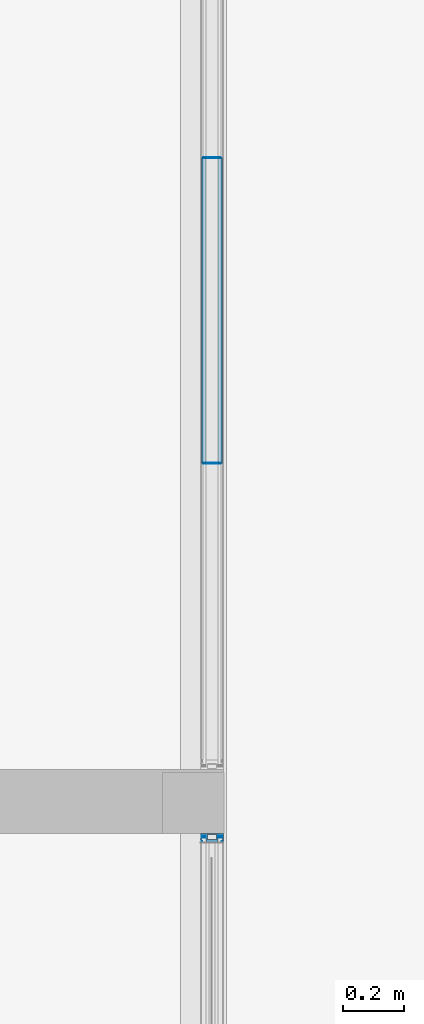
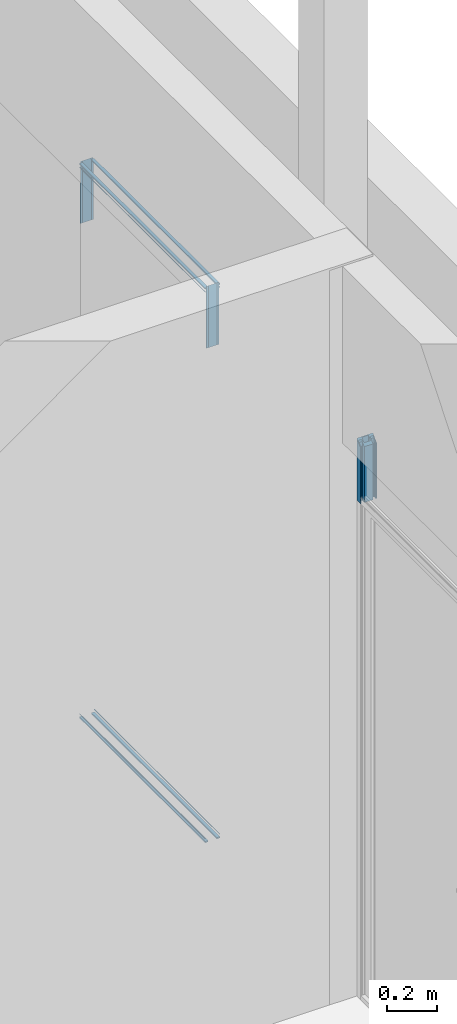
# One storey, part 23 of 65: 8 building element parts, 7 elements without a shape of their own.
"""IFC2X3 building model written with IfcOpenShell, lengths in millimetres."""

import ifcopenshell
import ifcopenshell.guid

model = None  # the IFC model being written
_history = None  # IfcOwnerHistory: only IFC2X3 demands one
_inside = {}  # id of a spatial element -> (the spatial element, [elements in it])
_under = {}  # id of a project, library or spatial element -> (it, [spatial elements below it])
_declared = {}  # id of a project -> (the project, [libraries it declares])
_typed = {}  # id of a type object -> (the type object, [elements of that type])
_made_of = {}  # id of a material, layer set ... -> (it, [elements and type objects made of it])


def new_model(schema):
    """Start an empty IFC model of exactly this schema.

    Asked for "IFC4X3", IfcOpenShell would pick the latest addendum, in which some entities
    have other attributes; the version numbers below select the first issue.
    IFC2X3 requires an IfcOwnerHistory on every rooted entity: one is made here for all.
    """
    global model, _history
    if schema == "IFC4X3":
        model = ifcopenshell.file(schema_version=(4, 3, 0, 0))
    else:
        model = ifcopenshell.file(schema=schema)
    _inside.clear()
    _under.clear()
    _declared.clear()
    _typed.clear()
    _made_of.clear()
    _history = None
    if model.schema == "IFC2X3":
        org = make("IfcOrganization", Name="unknown")
        user = make(
            "IfcPersonAndOrganization",
            ThePerson=make("IfcPerson", FamilyName="unknown"),
            TheOrganization=org,
        )
        app = make(
            "IfcApplication",
            ApplicationDeveloper=org,
            Version="unknown",
            ApplicationFullName="unknown",
            ApplicationIdentifier="unknown",
        )
        _history = make(
            "IfcOwnerHistory",
            OwningUser=user,
            OwningApplication=app,
            ChangeAction="ADDED",
            CreationDate=0,
        )
    return model


def make(cls, **values):
    """One entity of the class cls with the attributes given. An attribute that is None is left unset."""
    return model.create_entity(
        cls, **{name: value for name, value in values.items() if value is not None}
    )


def entity(cls, *values):
    """Any entity or typed value of the class cls, its attributes in the order of the schema. None: left unset."""
    e = model.create_entity(cls)
    for i, value in enumerate(values):
        if value is not None:
            e[i] = value
    return e


def rooted(cls, **values):
    """An entity with a GlobalId (a new one), such as an element, a storey or a relation."""
    return make(cls, GlobalId=ifcopenshell.guid.new(), OwnerHistory=_history, **values)


def si_unit(unit_type, name, prefix=None):
    """IfcSIUnit, for example si_unit("LENGTHUNIT", "METRE", prefix="MILLI")."""
    return make("IfcSIUnit", UnitType=unit_type, Prefix=prefix, Name=name)


def converted_unit(unit_type, name, factor, base, dimensions=None, offset=None):
    """IfcConversionBasedUnit, such as the inch: factor (a typed value) times the base unit."""
    return make(
        "IfcConversionBasedUnit"
        if offset is None
        else "IfcConversionBasedUnitWithOffset",
        ConversionOffset=offset,
        Dimensions=None
        if dimensions is None
        else entity("IfcDimensionalExponents", *dimensions),
        UnitType=unit_type,
        Name=name,
        ConversionFactor=make(
            "IfcMeasureWithUnit", ValueComponent=factor, UnitComponent=base
        ),
    )


def derived_unit(unit_type, elements):
    """IfcDerivedUnit: a product of units, each with its exponent."""
    return make(
        "IfcDerivedUnit",
        Elements=[
            make("IfcDerivedUnitElement", Unit=unit, Exponent=power)
            for unit, power in elements
        ],
        UnitType=unit_type,
    )


def money_unit(currency):
    """IfcMonetaryUnit."""
    return make("IfcMonetaryUnit", Currency=currency)


def assignment(units):
    """IfcUnitAssignment: the units of a project."""
    return None if units is None else make("IfcUnitAssignment", Units=units)


def point(xyz):
    """IfcCartesianPoint."""
    return None if xyz is None else make("IfcCartesianPoint", Coordinates=xyz)


def direction(xyz):
    """IfcDirection."""
    return None if xyz is None else make("IfcDirection", DirectionRatios=xyz)


def frame(location, z_axis=None, x_axis=None):
    """IfcAxis2Placement3D, a coordinate frame: its origin and axes. An axis left out is left unset."""
    return make(
        "IfcAxis2Placement3D",
        Location=point(location),
        Axis=direction(z_axis),
        RefDirection=direction(x_axis),
    )


def origin_with_axes():
    """The frame at (0, 0, 0) with the z axis (0, 0, 1) and the x axis (1, 0, 0) written out."""
    return frame((0.0, 0.0, 0.0), z_axis=(0.0, 0.0, 1.0), x_axis=(1.0, 0.0, 0.0))


def place(relative_to, where):
    """IfcLocalPlacement: puts the frame where relative to a parent placement (None: the world)."""
    return make(
        "IfcLocalPlacement", PlacementRelTo=relative_to, RelativePlacement=where
    )


def context(
    kind, dimensions, precision=None, world=None, true_north=None, identifier=None
):
    """IfcGeometricRepresentationContext, for example the 3D "Model" context."""
    return make(
        "IfcGeometricRepresentationContext",
        ContextIdentifier=identifier,
        ContextType=kind,
        CoordinateSpaceDimension=dimensions,
        Precision=precision,
        WorldCoordinateSystem=world,
        TrueNorth=true_north,
    )


def subcontext(parent, identifier, kind, view, scale=None):
    """IfcGeometricRepresentationSubContext, for example "Body" below "Model"."""
    return make(
        "IfcGeometricRepresentationSubContext",
        ContextIdentifier=identifier,
        ContextType=kind,
        ParentContext=parent,
        TargetScale=scale,
        TargetView=view,
    )


def project(units=None, contexts=None):
    """IfcProject with its units and contexts."""
    return rooted(
        "IfcProject",
        Name="project",
        RepresentationContexts=contexts,
        UnitsInContext=assignment(units),
    )


def spatial(cls, under=None, at=None, **own):
    """A site, building, storey or space (cls), placed at a placement, below another one or the project."""
    s = rooted(cls, ObjectPlacement=at, **own)
    if under is not None:
        _under.setdefault(under.id(), (under, []))[1].append(s)
    return s


def faces_of(points, faces, orient=None, outer=None):
    """IfcFace entities. A face is a list of loops; a loop is a list of indices into points, from 0.

    orient and outer hold one flag for each loop. By default every Orientation is true, the
    first loop of a face is its IfcFaceOuterBound and the others are IfcFaceBound.
    """
    made = []
    for i, loops in enumerate(faces):
        bounds = []
        for j, loop in enumerate(loops):
            is_outer = j == 0 if outer is None else outer[i][j]
            bounds.append(
                make(
                    "IfcFaceOuterBound" if is_outer else "IfcFaceBound",
                    Bound=make("IfcPolyLoop", Polygon=[points[k] for k in loop]),
                    Orientation=True if orient is None else orient[i][j],
                )
            )
        made.append(make("IfcFace", Bounds=bounds))
    return made


def faceted_brep(points, faces, orient=None, outer=None, voids=None):
    """IfcFacetedBrep: a solid bounded by flat faces; with voids (closed shells), ...WithVoids."""
    shared = [point(p) for p in points]
    hull = make("IfcClosedShell", CfsFaces=faces_of(shared, faces, orient, outer))
    if voids is None:
        return make("IfcFacetedBrep", Outer=hull)
    return make(
        "IfcFacetedBrepWithVoids",
        Outer=hull,
        Voids=[
            make(cls, CfsFaces=faces_of(shared, fs, o, b)) for cls, fs, o, b in voids
        ],
    )


def shape(context_of_items, identifier, shape_type, items):
    """IfcShapeRepresentation: the items that make up one representation, for example the "Body"."""
    return make(
        "IfcShapeRepresentation",
        ContextOfItems=context_of_items,
        RepresentationIdentifier=identifier,
        RepresentationType=shape_type,
        Items=items,
    )


def source(mapping_origin, context_of_items, identifier, shape_type, items):
    """IfcRepresentationMap: a shape defined once, which mapped items show again and again."""
    return make(
        "IfcRepresentationMap",
        MappingOrigin=mapping_origin,
        MappedRepresentation=shape(context_of_items, identifier, shape_type, items),
    )


def transform(
    local_origin,
    x_axis=None,
    y_axis=None,
    z_axis=None,
    scale=None,
    scale2=None,
    scale3=None,
    uniform=True,
):
    """IfcCartesianTransformationOperator3D, or its non-uniform kind. x_axis, y_axis, z_axis: its Axis1, 2, 3."""
    if uniform:
        return make(
            "IfcCartesianTransformationOperator3D",
            Axis1=direction(x_axis),
            Axis2=direction(y_axis),
            LocalOrigin=point(local_origin),
            Scale=scale,
            Axis3=direction(z_axis),
        )
    return make(
        "IfcCartesianTransformationOperator3DnonUniform",
        Axis1=direction(x_axis),
        Axis2=direction(y_axis),
        LocalOrigin=point(local_origin),
        Scale=scale,
        Axis3=direction(z_axis),
        Scale2=scale2,
        Scale3=scale3,
    )


def mapped(mapping_source, mapping_target):
    """IfcMappedItem: shows the shape of a source again, moved by a transform."""
    return make(
        "IfcMappedItem", MappingSource=mapping_source, MappingTarget=mapping_target
    )


def material(Name=None, Category=None):
    """IfcMaterial."""
    return make("IfcMaterial", Name=Name, Category=Category)


def made_of(thing, what):
    """Note that an element or type object is made of a material, layer set ...; save() writes the relation."""
    if what is not None:
        _made_of.setdefault(what.id(), (what, []))[1].append(thing)
    return thing


def type_object(cls, material=None, **own):
    """A type object (cls), such as IfcWallType, which elements share."""
    return made_of(rooted(cls, **own), material)


def element(
    cls,
    number,
    at=None,
    inside=None,
    cuts=None,
    type_object=None,
    material=None,
    context=None,
    identifier="Body",
    shape_type=None,
    held_by="IfcProductDefinitionShape",
    body=None,
    shapes=None,
    **own,
):
    """One element of the class cls, such as IfcWall. Its Tag is "e" and its number.

    at: its placement. inside: the storey or other place that contains it. cuts: it is an
    opening in that element (IfcRelVoidsElement). A single representation is given by context,
    identifier, shape_type and body (its items); several are given by shapes. held_by: the class
    of the entity that holds the representations. save() writes the other relations.
    """
    e = rooted(cls, Tag="e%d" % number, ObjectPlacement=at, **own)
    if body is not None:
        shapes = [shape(context, identifier, shape_type, body)]
    if shapes is not None:
        e.Representation = make(held_by, Representations=shapes)
    if inside is not None:
        _inside.setdefault(inside.id(), (inside, []))[1].append(e)
    if cuts is not None:
        rooted(
            "IfcRelVoidsElement", RelatingBuildingElement=cuts, RelatedOpeningElement=e
        )
    if type_object is not None:
        _typed.setdefault(type_object.id(), (type_object, []))[1].append(e)
    return made_of(e, material)


def aggregate(whole, parts):
    """IfcRelAggregates: a whole, such as a stair, and the parts it consists of."""
    return rooted("IfcRelAggregates", RelatingObject=whole, RelatedObjects=parts)


def save(model, path):
    """Write the relations noted so far, then the file.

    IfcRelAggregates (storeys below a building ...), IfcRelContainedInSpatialStructure (elements
    in a storey), IfcRelDefinesByType, IfcRelAssociatesMaterial and IfcRelDeclares: one each for
    every whole, place, type object, material and project.
    """
    for whole, parts in _under.values():
        aggregate(whole, parts)
    for where, things in _inside.values():
        rooted(
            "IfcRelContainedInSpatialStructure",
            RelatedElements=things,
            RelatingStructure=where,
        )
    for kind, things in _typed.values():
        rooted("IfcRelDefinesByType", RelatedObjects=things, RelatingType=kind)
    for what, things in _made_of.values():
        rooted("IfcRelAssociatesMaterial", RelatedObjects=things, RelatingMaterial=what)
    for by, libraries in _declared.values():
        rooted("IfcRelDeclares", RelatingContext=by, RelatedDefinitions=libraries)
    model.write(path)


model = new_model("IFC2X3")

# Units and contexts
model_context = context("Model", 3, precision=0.01, world=origin_with_axes(), true_north=direction((0.0, 1.0)))
body_context = subcontext(model_context, "Body", "Model", "MODEL_VIEW")
ifc_project = project(units=[si_unit("LENGTHUNIT", "METRE", prefix="MILLI"), si_unit("AREAUNIT", "SQUARE_METRE"), si_unit("VOLUMEUNIT", "CUBIC_METRE"), converted_unit("PLANEANGLEUNIT", "DEGREE", entity("IfcPlaneAngleMeasure", 0.0174532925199), si_unit("PLANEANGLEUNIT", "RADIAN"), dimensions=[0, 0, 0, 0, 0, 0, 0]), si_unit("SOLIDANGLEUNIT", "STERADIAN"), money_unit("EUR"), converted_unit("TIMEUNIT", "Year", entity("IfcTimeMeasure", 31556926.0), si_unit("TIMEUNIT", "SECOND"), dimensions=[0, 0, 1, 0, 0, 0, 0]), si_unit("MASSUNIT", "GRAM", prefix="KILO"), si_unit("THERMODYNAMICTEMPERATUREUNIT", "DEGREE_CELSIUS"), si_unit("LUMINOUSINTENSITYUNIT", "LUMEN"), si_unit("ENERGYUNIT", "JOULE", prefix="MEGA"), derived_unit("THERMALCONDUCTANCEUNIT", [(si_unit("POWERUNIT", "WATT"), 1), (si_unit("LENGTHUNIT", "METRE"), -1), (si_unit("THERMODYNAMICTEMPERATUREUNIT", "KELVIN"), -1)]), derived_unit("SPECIFICHEATCAPACITYUNIT", [(si_unit("ENERGYUNIT", "JOULE"), 1), (si_unit("MASSUNIT", "GRAM", prefix="KILO"), -1), (si_unit("THERMODYNAMICTEMPERATUREUNIT", "KELVIN"), -1)]), derived_unit("MASSDENSITYUNIT", [(si_unit("MASSUNIT", "GRAM", prefix="KILO"), 1), (si_unit("VOLUMEUNIT", "CUBIC_METRE"), -1)])], contexts=[model_context])

# Site, building, storey
site_placement = place(None, origin_with_axes())
site = spatial("IfcSite", under=ifc_project, at=site_placement, Name="Puškini 31, Narva", CompositionType="ELEMENT")
building_placement = place(site_placement, origin_with_axes())
building = spatial("IfcBuilding", under=site, at=building_placement, Name="Narva Riigigümnaasium", CompositionType="ELEMENT")
storey_placement = place(building_placement, frame((0.0, 0.0, -1320.0), z_axis=(0.0, 0.0, 1.0), x_axis=(1.0, 0.0, 0.0)))
storey = spatial("IfcBuildingStorey", under=building, at=storey_placement, Name="1.korrus -1.32", CompositionType="ELEMENT", Elevation=-1320.0)

# Curtain wall, members, building element parts
curtain_wall_type = type_object("IfcCurtainWallType", Name="Curtain Wall Type", PredefinedType="NOTDEFINED")
curtain_wall_1_placement = place(storey_placement, frame((30362.9999988, 168706.249936, -1.99739158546e-06), z_axis=(0.0, 0.0, 1.0), x_axis=(1.0, 0.0, 0.0)))
curtain_wall_1 = element("IfcCurtainWall", 1, at=curtain_wall_1_placement, inside=storey, type_object=curtain_wall_type, Name="G-SKLF-05")
member_type_1 = type_object("IfcMemberType", Name="Siseklaasfassaad - Raam n2htamatu 3 x 29", PredefinedType="MULLION")
member_1_placement = place(curtain_wall_1_placement, frame((0.0, -498.75, 2400.000002), z_axis=(0.0, 0.0, 1.0), x_axis=(0.0, -1.0, 0.0)))
member_1 = element("IfcMember", 2, at=member_1_placement, type_object=member_type_1, Name="G-SKLF-05-klaasidevaheline tihend", ObjectType="MULLION")
ifc_material_1 = material(Name="Klaas")
shared_shape_1 = source(origin_with_axes(), body_context, "Body", "Brep", [
    faceted_brep([(1.49998613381, 29.0064496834, 270.000069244), (1.4999861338, 29.0064496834, 0.0), (-1.5000138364, 29.0064496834, 0.0), (-1.50001386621, 29.0064496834, 270.000069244), (0.0, 29.0064496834, 300.000088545), (1.49998613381, 20.0064497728, 270.000069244), (1.4999861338, 20.0064497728, 0.0), (-1.5000138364, 20.0064497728, 0.0), (-1.50001386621, 20.0064497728, 270.000069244), (0.0, 20.0064497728, 300.000088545)], [[[0, 1, 2, 3, 4]], [[5, 6, 1, 0]], [[1, 6, 7, 2]], [[3, 2, 7, 8]], [[8, 9, 4, 3]], [[4, 9, 5, 0]], [[9, 8, 7, 6, 5]]]),
    faceted_brep([(1.49998613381, -19.993550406, 270.000069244), (1.4999861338, -19.993550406, 0.0), (-1.5000138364, -19.993550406, 0.0), (-1.50001386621, -19.993550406, 270.000069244), (0.0, -19.993550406, 300.000088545), (1.49998613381, -28.9935503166, 270.000069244), (1.4999861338, -28.9935503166, 0.0), (-1.5000138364, -28.9935503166, 0.0), (-1.50001386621, -28.9935503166, 270.000069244), (0.0, -28.9935503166, 300.000088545)], [[[0, 1, 2, 3, 4]], [[5, 6, 1, 0]], [[2, 1, 6, 7]], [[3, 2, 7, 8]], [[8, 9, 4, 3]], [[4, 9, 5, 0]], [[9, 8, 7, 6, 5]]]),
])
building_element_part_1_placement = place(member_1_placement, origin_with_axes())
building_element_part_1 = element("IfcBuildingElementPart", 3, at=building_element_part_1_placement, material=ifc_material_1, Name="Klaas", context=body_context, shape_type="MappedRepresentation", body=[
    mapped(shared_shape_1, transform((0.0, 0.0, 0.0), x_axis=(-1.0, 0.0, 0.0), y_axis=(0.0, -1.0, 0.0), z_axis=(0.0, 0.0, 1.0))),
])
member_2_placement = place(curtain_wall_1_placement, frame((0.0, 498.75, 2400.000002), z_axis=(0.0, 0.0, 1.0), x_axis=(0.0, -1.0, 0.0)))
member_2 = element("IfcMember", 4, at=member_2_placement, type_object=member_type_1, Name="G-SKLF-05-klaasidevaheline tihend", ObjectType="MULLION")
building_element_part_2_placement = place(member_2_placement, origin_with_axes())
building_element_part_2 = element("IfcBuildingElementPart", 5, at=building_element_part_2_placement, material=ifc_material_1, Name="Klaas", context=body_context, shape_type="MappedRepresentation", body=[
    mapped(shared_shape_1, transform((0.0, 0.0, 0.0), x_axis=(-1.0, 0.0, 0.0), y_axis=(0.0, -1.0, 0.0), z_axis=(0.0, 0.0, 1.0))),
])
ifc_material_2 = material(Name="VKR-06_Õhkvahe")
shared_shape_2 = source(origin_with_axes(), body_context, "Body", "Brep", [
    faceted_brep([(1.49998613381, 20.0064496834, 270.000069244), (1.4999861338, 20.0064496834, 0.0), (-1.5000138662, 20.0064496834, 0.0), (-1.50001386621, 20.0064496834, 270.000069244), (0.0, 20.0064496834, 300.000088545), (1.49998613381, -19.9935503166, 270.000069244), (1.4999861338, -19.9935503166, 0.0), (-1.5000138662, -19.9935503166, 0.0), (-1.50001386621, -19.9935503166, 270.000069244), (0.0, -19.9935503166, 300.000088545)], [[[0, 1, 2, 3, 4]], [[5, 6, 1, 0]], [[2, 1, 6, 7]], [[3, 2, 7, 8]], [[8, 9, 4, 3]], [[4, 9, 5, 0]], [[9, 8, 7, 6, 5]]]),
])
building_element_part_3_placement = place(member_1_placement, origin_with_axes())
building_element_part_3 = element("IfcBuildingElementPart", 6, at=building_element_part_3_placement, material=ifc_material_2, Name="VKR-06_Õhkvahe", context=body_context, shape_type="MappedRepresentation", body=[
    mapped(shared_shape_2, transform((0.0, 0.0, 0.0), x_axis=(-1.0, 0.0, 0.0), y_axis=(0.0, -1.0, 0.0), z_axis=(0.0, 0.0, 1.0))),
])
aggregate(member_1, [building_element_part_1, building_element_part_3])
building_element_part_4_placement = place(member_2_placement, origin_with_axes())
building_element_part_4 = element("IfcBuildingElementPart", 7, at=building_element_part_4_placement, material=ifc_material_2, Name="VKR-06_Õhkvahe", context=body_context, shape_type="MappedRepresentation", body=[
    mapped(shared_shape_2, transform((0.0, 0.0, 0.0), x_axis=(-1.0, 0.0, 0.0), y_axis=(0.0, -1.0, 0.0), z_axis=(0.0, 0.0, 1.0))),
])
aggregate(member_2, [building_element_part_2, building_element_part_4])
member_type_2 = type_object("IfcMemberType", Name="Boundary Frame 30 x 37", PredefinedType="MULLION")
member_3_placement = place(curtain_wall_1_placement, frame((0.0, -498.75, 2700.00009054), z_axis=(0.0, 1.0, 0.0), x_axis=(0.0, 0.0, 1.0)))
member_3 = element("IfcMember", 8, at=member_3_placement, type_object=member_type_2, Name="G-SKLF-13-raam", ObjectType="MULLION")
ifc_material_3 = material(Name="Klaasvill")
shared_shape_3 = source(origin_with_axes(), body_context, "Body", "Brep", [
    faceted_brep([(13.8499999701, 20.000000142, 0.69249315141), (13.8499999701, 20.000000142, 996.807494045), (7.49999990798, 20.000000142, 997.124996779), (7.49999990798, 20.000000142, 0.374996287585), (13.8499999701, 34.0161444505, 0.69249315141), (13.8499999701, 34.0161444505, 996.807494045), (7.49999990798, 34.0161444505, 997.124996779), (7.49999990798, 34.0161444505, 0.374996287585)], [[[0, 1, 2, 3]], [[4, 5, 1, 0]], [[2, 1, 5, 6]], [[3, 2, 6, 7]], [[3, 7, 4, 0]], [[7, 6, 5, 4]]]),
    faceted_brep([(25.004489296, 32.0307503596, 1.2502121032), (25.004489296, 32.0307503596, 996.249764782), (24.987414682, 34.0161444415, 996.25061852), (24.987414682, 34.0161444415, 1.24935838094), (25.742237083, 31.2930025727, 1.28709912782), (25.742237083, 31.2930025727, 996.212877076), (26.7500193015, 31.0229681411, 996.162487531), (27.75780152, 31.2930025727, 996.112097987), (28.4955493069, 32.0307503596, 996.075210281), (28.7655837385, 33.0385325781, 996.061708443), (28.5126239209, 34.0161444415, 996.074356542), (28.5126239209, 34.0161444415, 1.42561710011), (28.7655837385, 33.0385325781, 1.43826496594), (28.4955493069, 32.0307503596, 1.42476337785), (27.75780152, 31.2930025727, 1.38787635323), (26.7500193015, 31.0229681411, 1.33748774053)], [[[0, 1, 2, 3]], [[4, 5, 1, 0]], [[2, 1, 5, 6, 7, 8, 9, 10]], [[3, 2, 10, 11]], [[3, 11, 12, 13, 14, 15, 4, 0]], [[15, 6, 5, 4]], [[14, 7, 6, 15]], [[13, 8, 7, 14]], [[12, 9, 8, 13]], [[11, 10, 9, 12]]]),
    faceted_brep([(7.49999990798, -34.0161445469, 0.374996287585), (7.49999990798, -34.0161445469, 997.124996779), (7.49999990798, -19.9999997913, 997.124996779), (7.49999990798, -19.9999997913, 0.374996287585), (13.8499999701, -34.0161445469, 0.69249315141), (13.8499999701, -34.0161445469, 996.807494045), (13.8499999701, -19.9999997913, 996.807494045), (13.8499999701, -19.9999997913, 0.69249315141)], [[[0, 1, 2, 3]], [[4, 5, 1, 0]], [[2, 1, 5, 6]], [[3, 2, 6, 7]], [[3, 7, 4, 0]], [[7, 6, 5, 4]]]),
    faceted_brep([(24.987414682, -34.0161444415, 1.24935838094), (24.987414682, -34.0161444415, 996.25061852), (25.004489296, -32.0307503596, 996.249764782), (25.004489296, -32.0307503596, 1.2502121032), (28.5126239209, -34.0161444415, 1.42561710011), (28.5126239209, -34.0161444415, 996.074356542), (28.7655837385, -33.0385325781, 996.061708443), (28.4955493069, -32.0307503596, 996.075210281), (27.75780152, -31.2930025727, 996.112097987), (26.7500193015, -31.0229681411, 996.162487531), (25.742237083, -31.2930025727, 996.212877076), (25.742237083, -31.2930025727, 1.28709912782), (26.7500193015, -31.0229681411, 1.33748774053), (27.75780152, -31.2930025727, 1.38787635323), (28.4955493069, -32.0307503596, 1.42476337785), (28.7655837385, -33.0385325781, 1.43826496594)], [[[0, 1, 2, 3]], [[4, 5, 1, 0]], [[2, 1, 5, 6, 7, 8, 9, 10]], [[3, 2, 10, 11]], [[3, 11, 12, 13, 14, 15, 4, 0]], [[15, 6, 5, 4]], [[14, 7, 6, 15]], [[13, 8, 7, 14]], [[12, 9, 8, 13]], [[11, 10, 9, 12]]]),
])
building_element_part_5_placement = place(member_3_placement, origin_with_axes())
building_element_part_5 = element("IfcBuildingElementPart", 9, at=building_element_part_5_placement, material=ifc_material_3, Name="Klaasvill", context=body_context, shape_type="MappedRepresentation", body=[
    mapped(shared_shape_3, transform((0.0, 0.0, 0.0), x_axis=(-1.0, 0.0, 0.0), y_axis=(0.0, -1.0, 0.0), z_axis=(0.0, 0.0, 1.0))),
])
aggregate(member_3, [building_element_part_5])
member_4_placement = place(curtain_wall_1_placement, frame((0.0, -498.75, 0.0), z_axis=(0.0, 1.0, 0.0), x_axis=(0.0, 0.0, 1.0)))
member_4 = element("IfcMember", 10, at=member_4_placement, type_object=member_type_2, Name="G-SKLF-06-raam", ObjectType="MULLION")
aggregate(curtain_wall_1, [member_1, member_3, member_4, member_2])
shared_shape_4 = source(origin_with_axes(), body_context, "Body", "Brep", [
    faceted_brep([(-13.8499999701, 20.000000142, 0.69249315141), (-7.49999990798, 20.000000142, 0.374996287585), (-7.49999990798, 20.000000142, 997.124996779), (-13.8499999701, 20.000000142, 996.807494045), (-13.8499999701, 34.0161444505, 0.69249315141), (-7.49999990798, 34.0161444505, 0.374996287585), (-7.49999990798, 34.0161444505, 997.124996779), (-13.8499999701, 34.0161444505, 996.807494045)], [[[0, 1, 2, 3]], [[1, 0, 4, 5]], [[1, 5, 6, 2]], [[2, 6, 7, 3]], [[4, 0, 3, 7]], [[5, 4, 7, 6]]]),
    faceted_brep([(-25.004489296, 32.0307503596, 1.2502121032), (-24.987414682, 34.0161444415, 1.24935838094), (-24.987414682, 34.0161444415, 996.25061852), (-25.004489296, 32.0307503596, 996.249764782), (-25.742237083, 31.2930025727, 1.28709912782), (-26.7500193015, 31.0229681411, 1.33748774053), (-27.75780152, 31.2930025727, 1.38787635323), (-28.4955493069, 32.0307503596, 1.42476337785), (-28.7655837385, 33.0385325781, 1.43826496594), (-28.5126239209, 34.0161444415, 1.42561710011), (-28.5126239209, 34.0161444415, 996.074356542), (-28.7655837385, 33.0385325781, 996.061708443), (-28.4955493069, 32.0307503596, 996.075210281), (-27.75780152, 31.2930025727, 996.112097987), (-26.7500193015, 31.0229681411, 996.162487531), (-25.742237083, 31.2930025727, 996.212877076)], [[[0, 1, 2, 3]], [[1, 0, 4, 5, 6, 7, 8, 9]], [[1, 9, 10, 2]], [[2, 10, 11, 12, 13, 14, 15, 3]], [[4, 0, 3, 15]], [[5, 4, 15, 14]], [[6, 5, 14, 13]], [[7, 6, 13, 12]], [[8, 7, 12, 11]], [[9, 8, 11, 10]]]),
    faceted_brep([(-7.49999990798, -34.0161445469, 0.374996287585), (-7.49999990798, -19.9999997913, 0.374996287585), (-7.49999990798, -19.9999997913, 997.124996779), (-7.49999990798, -34.0161445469, 997.124996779), (-13.8499999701, -34.0161445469, 0.69249315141), (-13.8499999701, -19.9999997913, 0.69249315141), (-13.8499999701, -19.9999997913, 996.807494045), (-13.8499999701, -34.0161445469, 996.807494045)], [[[0, 1, 2, 3]], [[1, 0, 4, 5]], [[1, 5, 6, 2]], [[2, 6, 7, 3]], [[4, 0, 3, 7]], [[5, 4, 7, 6]]]),
    faceted_brep([(-24.987414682, -34.0161444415, 1.24935838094), (-25.004489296, -32.0307503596, 1.2502121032), (-25.004489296, -32.0307503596, 996.249764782), (-24.987414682, -34.0161444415, 996.25061852), (-28.5126239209, -34.0161444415, 1.42561710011), (-28.7655837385, -33.0385325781, 1.43826496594), (-28.4955493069, -32.0307503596, 1.42476337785), (-27.75780152, -31.2930025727, 1.38787635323), (-26.7500193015, -31.0229681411, 1.33748774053), (-25.742237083, -31.2930025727, 1.28709912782), (-25.742237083, -31.2930025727, 996.212877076), (-26.7500193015, -31.0229681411, 996.162487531), (-27.75780152, -31.2930025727, 996.112097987), (-28.4955493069, -32.0307503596, 996.075210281), (-28.7655837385, -33.0385325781, 996.061708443), (-28.5126239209, -34.0161444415, 996.074356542)], [[[0, 1, 2, 3]], [[1, 0, 4, 5, 6, 7, 8, 9]], [[1, 9, 10, 2]], [[2, 10, 11, 12, 13, 14, 15, 3]], [[4, 0, 3, 15]], [[5, 4, 15, 14]], [[6, 5, 14, 13]], [[7, 6, 13, 12]], [[8, 7, 12, 11]], [[9, 8, 11, 10]]]),
])
building_element_part_6_placement = place(member_4_placement, origin_with_axes())
building_element_part_6 = element("IfcBuildingElementPart", 11, at=building_element_part_6_placement, material=ifc_material_3, Name="Klaasvill", context=body_context, shape_type="MappedRepresentation", body=[
    mapped(shared_shape_4, transform((0.0, 0.0, 0.0), x_axis=(-1.0, 0.0, 0.0), y_axis=(0.0, -1.0, 0.0), z_axis=(0.0, 0.0, 1.0))),
])
aggregate(member_4, [building_element_part_6])

# Curtain wall, member, building element parts
curtain_wall_2_placement = place(storey_placement, frame((30362.9999988, 164066.428557, -5.96047033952e-06), z_axis=(0.0, 0.0, 1.0), x_axis=(1.0, 0.0, 0.0)))
curtain_wall_2 = element("IfcCurtainWall", 12, at=curtain_wall_2_placement, inside=storey, type_object=curtain_wall_type, Name="G-SKLF-04")
member_5_placement = place(curtain_wall_2_placement, frame((0.0, 2933.57140851, 2400.00000596), z_axis=(0.0, 0.0, 1.0), x_axis=(0.0, -1.0, 0.0)))
member_5 = element("IfcMember", 13, at=member_5_placement, type_object=member_type_2, Name="G-SKLF-26-raam", ObjectType="MULLION")
aggregate(curtain_wall_2, [member_5])
shared_shape_5 = source(origin_with_axes(), body_context, "Body", "Brep", [
    faceted_brep([(7.49999990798, 20.000000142, 0.0), (13.8499999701, 20.000000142, 0.0), (13.8499999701, 20.000000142, 286.15000003), (7.49999990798, 20.000000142, 292.500000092), (7.49999990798, 34.0161444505, 0.0), (13.8499999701, 34.0161444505, 0.0), (13.8499999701, 34.0161444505, 286.15000003), (7.49999990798, 34.0161444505, 292.500000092)], [[[0, 1, 2, 3]], [[0, 4, 5, 1]], [[1, 5, 6, 2]], [[3, 2, 6, 7]], [[4, 0, 3, 7]], [[5, 4, 7, 6]]]),
    faceted_brep([(24.987414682, 34.0161444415, 0.0), (25.004489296, 32.0307503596, 0.0), (25.004489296, 32.0307503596, 274.995510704), (24.987414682, 34.0161444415, 275.012585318), (28.5126239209, 34.0161444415, 0.0), (28.7655837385, 33.0385325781, 0.0), (28.4955493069, 32.0307503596, 0.0), (27.75780152, 31.2930025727, 0.0), (26.7500193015, 31.0229681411, 0.0), (25.742237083, 31.2930025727, 0.0), (25.742237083, 31.2930025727, 274.257762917), (26.7500193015, 31.0229681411, 273.249980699), (27.75780152, 31.2930025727, 272.24219848), (28.4955493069, 32.0307503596, 271.504450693), (28.7655837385, 33.0385325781, 271.234416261), (28.5126239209, 34.0161444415, 271.487376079)], [[[0, 1, 2, 3]], [[0, 4, 5, 6, 7, 8, 9, 1]], [[1, 9, 10, 2]], [[3, 2, 10, 11, 12, 13, 14, 15]], [[4, 0, 3, 15]], [[5, 4, 15, 14]], [[6, 5, 14, 13]], [[7, 6, 13, 12]], [[8, 7, 12, 11]], [[9, 8, 11, 10]]]),
    faceted_brep([(7.49999990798, -19.9999997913, 0.0), (7.49999990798, -34.0161445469, 0.0), (7.49999990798, -34.0161445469, 292.500000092), (7.49999990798, -19.9999997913, 292.500000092), (13.8499999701, -19.9999997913, 0.0), (13.8499999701, -34.0161445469, 0.0), (13.8499999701, -34.0161445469, 286.15000003), (13.8499999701, -19.9999997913, 286.15000003)], [[[0, 1, 2, 3]], [[0, 4, 5, 1]], [[1, 5, 6, 2]], [[3, 2, 6, 7]], [[4, 0, 3, 7]], [[5, 4, 7, 6]]]),
    faceted_brep([(25.004489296, -32.0307503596, 0.0), (24.987414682, -34.0161444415, 0.0), (24.987414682, -34.0161444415, 275.012585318), (25.004489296, -32.0307503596, 274.995510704), (25.742237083, -31.2930025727, 0.0), (26.7500193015, -31.0229681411, 0.0), (27.75780152, -31.2930025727, 0.0), (28.4955493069, -32.0307503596, 0.0), (28.7655837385, -33.0385325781, 0.0), (28.5126239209, -34.0161444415, 0.0), (28.5126239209, -34.0161444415, 271.487376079), (28.7655837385, -33.0385325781, 271.234416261), (28.4955493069, -32.0307503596, 271.504450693), (27.75780152, -31.2930025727, 272.24219848), (26.7500193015, -31.0229681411, 273.249980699), (25.742237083, -31.2930025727, 274.257762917)], [[[0, 1, 2, 3]], [[0, 4, 5, 6, 7, 8, 9, 1]], [[1, 9, 10, 2]], [[3, 2, 10, 11, 12, 13, 14, 15]], [[4, 0, 3, 15]], [[5, 4, 15, 14]], [[6, 5, 14, 13]], [[7, 6, 13, 12]], [[8, 7, 12, 11]], [[9, 8, 11, 10]]]),
])
building_element_part_7_placement = place(member_5_placement, origin_with_axes())
building_element_part_7 = element("IfcBuildingElementPart", 14, at=building_element_part_7_placement, material=ifc_material_3, Name="Klaasvill", context=body_context, shape_type="MappedRepresentation", body=[
    mapped(shared_shape_5, transform((0.0, 0.0, 0.0))),
])
ifc_material_4 = material(Name="Teras RAL7012")
shared_shape_6 = source(origin_with_axes(), body_context, "Body", "Brep", [
    faceted_brep([(0.0, -17.0000000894, 0.0), (29.5999996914, -17.0000000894, 0.0), (29.5999996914, -17.0000000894, 270.400000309), (0.0, -17.0000000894, 300.0), (0.0, 17.0000000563, 0.0), (29.5999996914, 17.0000000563, 0.0), (1.9999999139, 15.0000001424, 0.0), (1.9999999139, -15.0000001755, 0.0), (18.7999996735, -15.0000001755, 0.0), (18.7999996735, 15.0000001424, 0.0), (29.5999996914, 17.0000000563, 270.400000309), (0.0, 17.0000000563, 300.0), (1.9999999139, 15.0000001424, 298.000000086), (18.7999996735, 15.0000001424, 281.200000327), (18.7999996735, -15.0000001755, 281.200000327), (1.9999999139, -15.0000001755, 298.000000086)], [[[0, 1, 2, 3]], [[0, 4, 5, 1], [6, 7, 8, 9]], [[1, 5, 10, 2]], [[3, 2, 10, 11], [12, 13, 14, 15]], [[4, 0, 3, 11]], [[5, 4, 11, 10]], [[7, 6, 12, 15]], [[8, 7, 15, 14]], [[9, 8, 14, 13]], [[6, 9, 13, 12]]]),
    faceted_brep([(0.0, 17.0, 0.0), (29.5999996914, 17.0000000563, 0.0), (29.5999996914, 17.0000000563, 270.400000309), (0.0, 17.0, 300.0), (0.0, 37.0, 0.0), (30.0000193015, 37.0, 0.0), (30.0000193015, 34.0161444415, 0.0), (28.5126239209, 34.0161444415, 0.0), (24.987414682, 34.0161444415, 0.0), (13.8499999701, 34.0161444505, 0.0), (7.49999999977, 34.0161444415, 0.0), (7.49999999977, 20.0, 0.0), (13.8499999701, 20.000000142, 0.0), (30.0000193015, 20.0, 0.0), (30.0000193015, 17.0, 0.0), (30.0000193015, 17.0, 269.999980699), (30.0000193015, 20.0, 269.999980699), (13.8499999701, 20.000000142, 286.15000003), (7.49999999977, 20.0, 292.5), (7.49999999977, 34.0161444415, 292.5), (13.8499999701, 34.0161444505, 286.15000003), (24.987414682, 34.0161444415, 275.012585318), (28.5126239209, 34.0161444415, 271.487376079), (30.0000193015, 34.0161444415, 269.999980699), (30.0000193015, 37.0, 269.999980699), (0.0, 37.0, 300.0)], [[[0, 1, 2, 3]], [[0, 4, 5, 6, 7, 8, 9, 10, 11, 12, 13, 14, 1]], [[1, 14, 15, 2]], [[3, 2, 15, 16, 17, 18, 19, 20, 21, 22, 23, 24, 25]], [[4, 0, 3, 25]], [[5, 4, 25, 24]], [[6, 5, 24, 23]], [[7, 6, 23, 22]], [[8, 7, 22, 21]], [[9, 8, 21, 20]], [[10, 9, 20, 19]], [[11, 10, 19, 18]], [[12, 11, 18, 17]], [[13, 12, 17, 16]], [[14, 13, 16, 15]]]),
    faceted_brep([(0.0, -17.0, 0.0), (0.0, -37.0, 0.0), (0.0, -37.0, 300.0), (0.0, -17.0, 300.0), (29.5999996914, -17.0000000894, 0.0), (30.0000193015, -17.0, 0.0), (30.0000193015, -20.0, 0.0), (13.8499999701, -19.9999997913, 0.0), (7.49999999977, -20.0, 0.0), (7.49999999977, -34.0161444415, 0.0), (13.8499999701, -34.0161445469, 0.0), (24.987414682, -34.0161444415, 0.0), (28.5126239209, -34.0161444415, 0.0), (30.0000193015, -34.0161444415, 0.0), (30.0000193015, -37.0, 0.0), (30.0000193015, -37.0, 269.999980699), (30.0000193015, -34.0161444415, 269.999980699), (28.5126239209, -34.0161444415, 271.487376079), (24.987414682, -34.0161444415, 275.012585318), (13.8499999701, -34.0161445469, 286.15000003), (7.49999999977, -34.0161444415, 292.5), (7.49999999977, -20.0, 292.5), (13.8499999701, -19.9999997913, 286.15000003), (30.0000193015, -20.0, 269.999980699), (30.0000193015, -17.0, 269.999980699), (29.5999996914, -17.0000000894, 270.400000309)], [[[0, 1, 2, 3]], [[0, 4, 5, 6, 7, 8, 9, 10, 11, 12, 13, 14, 1]], [[1, 14, 15, 2]], [[3, 2, 15, 16, 17, 18, 19, 20, 21, 22, 23, 24, 25]], [[4, 0, 3, 25]], [[5, 4, 25, 24]], [[6, 5, 24, 23]], [[7, 6, 23, 22]], [[8, 7, 22, 21]], [[9, 8, 21, 20]], [[10, 9, 20, 19]], [[11, 10, 19, 18]], [[12, 11, 18, 17]], [[13, 12, 17, 16]], [[14, 13, 16, 15]]]),
])
building_element_part_8_placement = place(member_5_placement, origin_with_axes())
building_element_part_8 = element("IfcBuildingElementPart", 15, at=building_element_part_8_placement, material=ifc_material_4, Name="Teras RAL7012", context=body_context, shape_type="MappedRepresentation", body=[
    mapped(shared_shape_6, transform((0.0, 0.0, 0.0))),
])
aggregate(member_5, [building_element_part_7, building_element_part_8])

save(model, "model.ifc")
